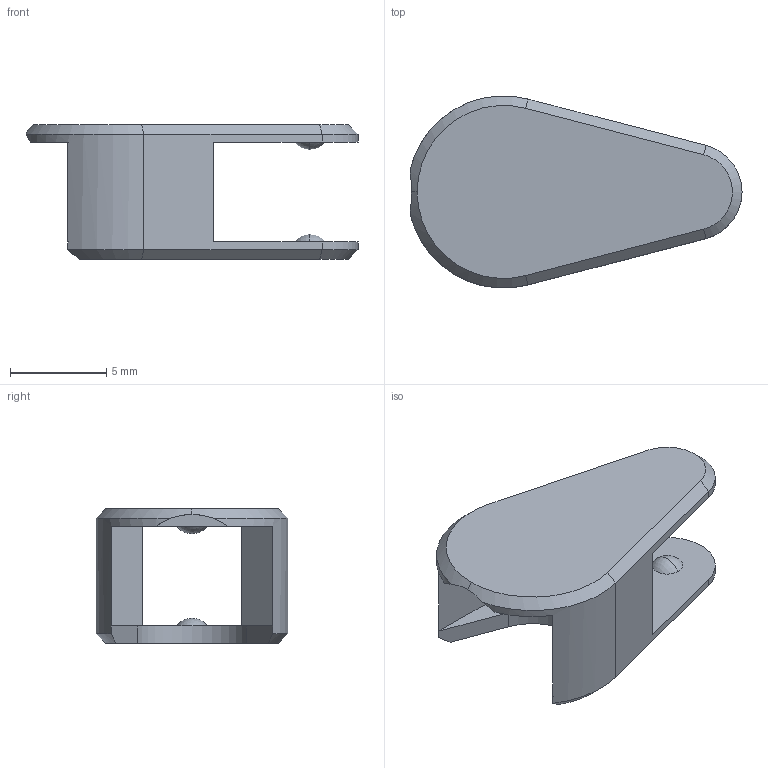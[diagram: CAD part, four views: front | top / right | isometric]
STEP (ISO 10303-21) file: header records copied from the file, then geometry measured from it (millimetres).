
FILE_DESCRIPTION (( 'STEP AP214' ), '1' );
FILE_NAME ('Upper Leg Armor.STEP', '2023-12-23T22:28:18', ( '' ), ( '' ), 'SwSTEP 2.0', 'SolidWorks 2023', '' );
FILE_SCHEMA (( 'AUTOMOTIVE_DESIGN' ));
Length unit declared in the file: millimetre
Products named in the file (1): Upper Leg Armor
Bounding box: 17.27 x 9.98 x 7 mm (x, y, z)
Volume: 223.6 mm3; surface area: 628.3 mm2
Topology: 1 solids, 1 shells, 39 faces, 102 edges, 65 vertices
Faces by surface type: plane 21, cylinder 7, cone 7, sphere 4
Entity records: 1231 total; most frequent: CARTESIAN_POINT 229, DIRECTION 206, ORIENTED_EDGE 204, EDGE_CURVE 102, AXIS2_PLACEMENT_3D 70, VECTOR 66, LINE 66, VERTEX_POINT 65
